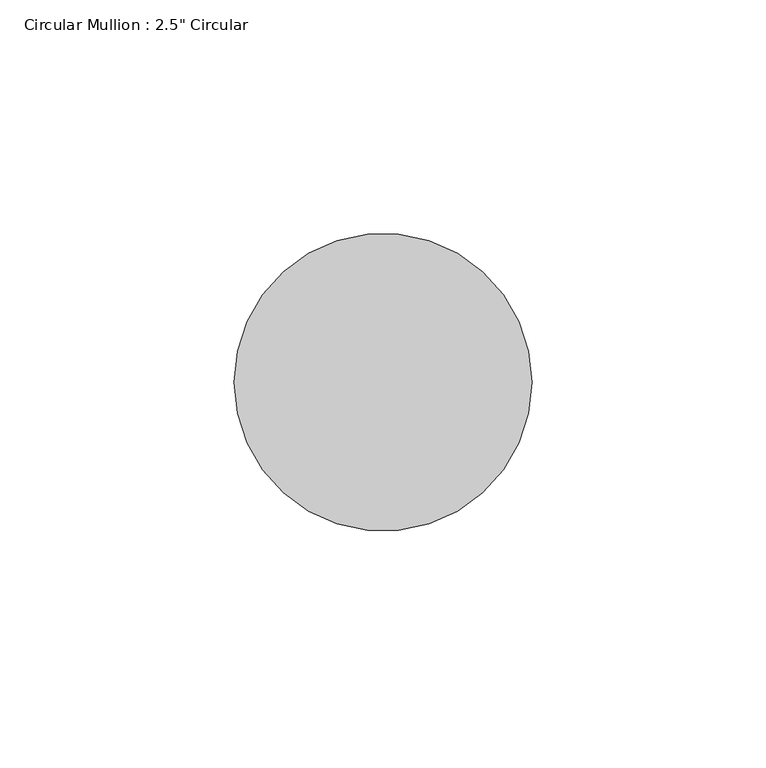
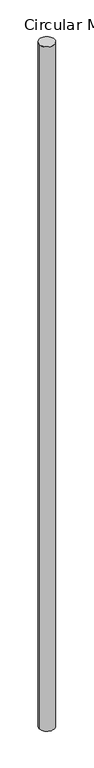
"""IFC4 building model written with IfcOpenShell, lengths in millimetres: member geometry."""

from ifc_helpers import new_model, si_unit, point, frame, origin, origin_2d, place, context, project, spatial, circle_curve, trimmed, segment, composite_curve, outline, extrude, source, transform, mapped, element, save


def member_ab0128fd(model_context):
    return source(origin(), model_context, "Body", "SweptSolid", [
        extrude(outline(composite_curve([segment(trimmed(circle_curve(origin_2d(), 31.75), [point((31.75, 0.0))], [point((-31.75, 0.0))], False, "CARTESIAN"), True, "CONTINUOUS"), segment(trimmed(circle_curve(origin_2d(), 31.75), [point((-31.75, 0.0))], [point((31.75, 0.0))], False, "CARTESIAN"), True, "CONTINUOUS")], self_intersect=False)), frame((0.0, 0.0, -2972.1754915), z_axis=(0.0, 0.0, 1.0), x_axis=(1.0, 0.0, 0.0)), (0.0, 0.0, 1.0), 2972.1754915),
    ])


if __name__ == "__main__":
    model = new_model("IFC4")
    model_context = context("Model", 3, world=origin())
    ifc_project = project(units=[si_unit("LENGTHUNIT", "METRE", prefix="MILLI")], contexts=[model_context])
    site = spatial("IfcSite", under=ifc_project)
    building = spatial("IfcBuilding", under=site)
    placement = place(None, origin())
    member_shape = member_ab0128fd(model_context)
    element("IfcMember", 1, ObjectType="Circular Mullion : 2.5\" Circular", at=placement, inside=building, context=model_context, shape_type="MappedRepresentation", body=[
        mapped(member_shape, transform((0.0, 0.0, 0.0), x_axis=(1.0, 0.0, 0.0), y_axis=(0.0, 1.0, 0.0), z_axis=(0.0, 0.0, 1.0))),
    ])
    save(model, "model.ifc")
